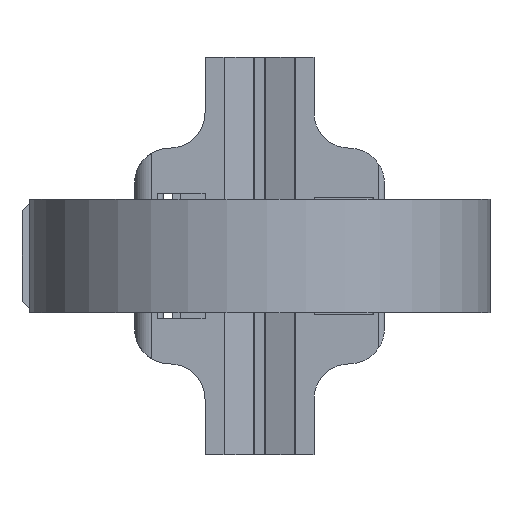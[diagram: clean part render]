
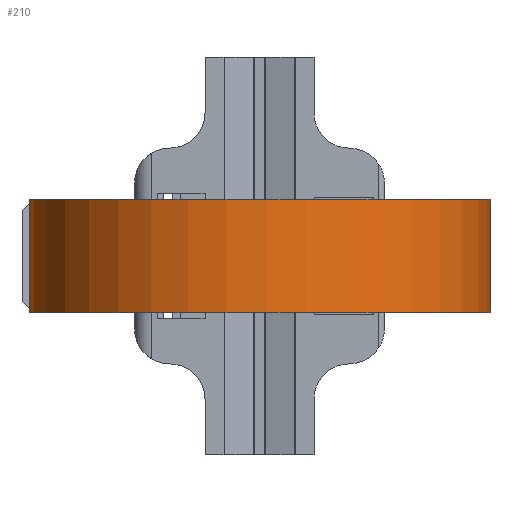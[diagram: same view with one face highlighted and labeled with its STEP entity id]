
A CAD part, front view. The second image highlights one B-rep face of the part: STEP entity #210.
In plain terms, the highlighted cylindrical face has radius 20.3 mm (diameter 40.6 mm), a partial arc.
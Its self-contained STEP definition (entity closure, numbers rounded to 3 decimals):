
#210 = ADVANCED_FACE( '', ( #514 ), #515, .T. );
#514 = FACE_OUTER_BOUND( '', #921, .T. );
#515 = CYLINDRICAL_SURFACE( '', #922, 20.3 );
#921 = EDGE_LOOP( '', ( #1485, #1486, #1487, #1488 ) );
#922 = AXIS2_PLACEMENT_3D( '', #1489, #1490, #1491 );
#1485 = ORIENTED_EDGE( '', *, *, #2609, .T. );
#1486 = ORIENTED_EDGE( '', *, *, #2610, .F. );
#1487 = ORIENTED_EDGE( '', *, *, #2611, .F. );
#1488 = ORIENTED_EDGE( '', *, *, #2612, .T. );
#1489 = CARTESIAN_POINT( '', ( 0., -20.15, 5. ) );
#1490 = DIRECTION( '', ( 0., 0., 1. ) );
#1491 = DIRECTION( '', ( -1., 0., 0. ) );
#2609 = EDGE_CURVE( '', #3205, #3206, #3207, .T. );
#2610 = EDGE_CURVE( '', #3208, #3206, #3209, .T. );
#2611 = EDGE_CURVE( '', #3210, #3208, #3211, .T. );
#2612 = EDGE_CURVE( '', #3210, #3205, #3212, .T. );
#3205 = VERTEX_POINT( '', #4102 );
#3206 = VERTEX_POINT( '', #4103 );
#3207 = CIRCLE( '', #4104, 20.3 );
#3208 = VERTEX_POINT( '', #4105 );
#3209 = LINE( '', #4106, #4107 );
#3210 = VERTEX_POINT( '', #4108 );
#3211 = CIRCLE( '', #4109, 20.3 );
#3212 = LINE( '', #4110, #4111 );
#4102 = CARTESIAN_POINT( '', ( -7.948, -1.471, -5. ) );
#4103 = CARTESIAN_POINT( '', ( 9.953, -2.457, -5. ) );
#4104 = AXIS2_PLACEMENT_3D( '', #4924, #4925, #4926 );
#4105 = CARTESIAN_POINT( '', ( 9.953, -2.457, 5. ) );
#4106 = CARTESIAN_POINT( '', ( 9.953, -2.457, 5. ) );
#4107 = VECTOR( '', #4927, 1000. );
#4108 = CARTESIAN_POINT( '', ( -7.948, -1.471, 5. ) );
#4109 = AXIS2_PLACEMENT_3D( '', #4928, #4929, #4930 );
#4110 = CARTESIAN_POINT( '', ( -7.948, -1.471, 5. ) );
#4111 = VECTOR( '', #4931, 1000. );
#4924 = CARTESIAN_POINT( '', ( 0., -20.15, -5. ) );
#4925 = DIRECTION( '', ( 0., 0., 1. ) );
#4926 = DIRECTION( '', ( 1., 0., 0. ) );
#4927 = DIRECTION( '', ( 0., 0., -1. ) );
#4928 = CARTESIAN_POINT( '', ( 0., -20.15, 5. ) );
#4929 = DIRECTION( '', ( 0., 0., 1. ) );
#4930 = DIRECTION( '', ( 1., 0., 0. ) );
#4931 = DIRECTION( '', ( 0., 0., -1. ) );
